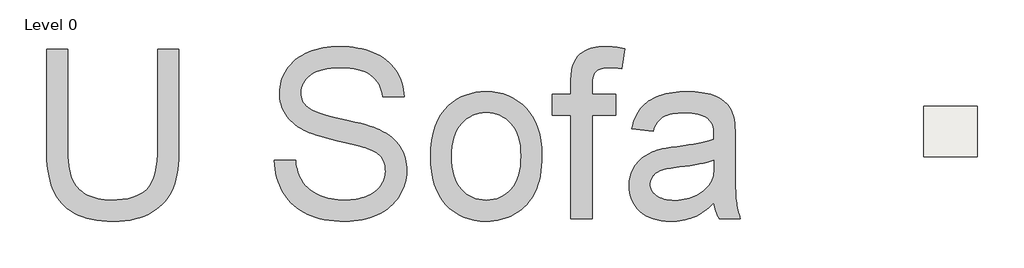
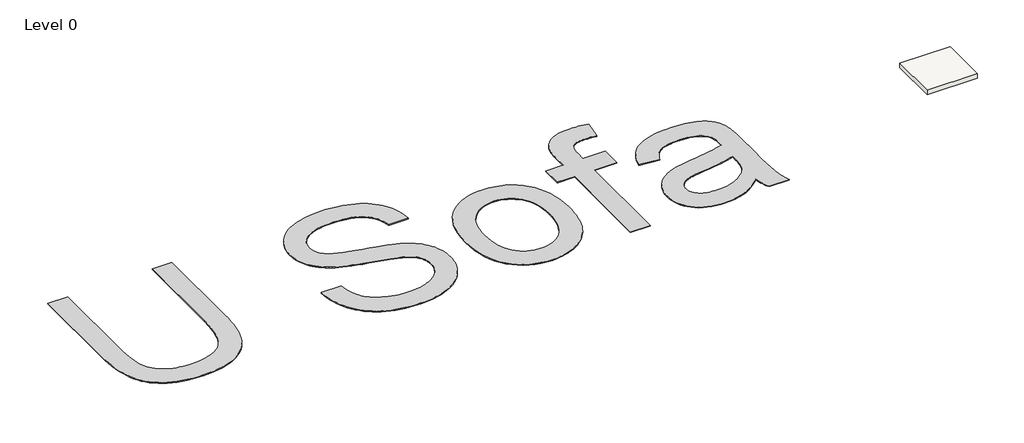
# One storey, incomplete: 1 proxy, 1 slab.
"""IFC4 building model written with IfcOpenShell, lengths in millimetres."""

from ifc_helpers import new_model, si_unit, frame, origin, origin_with_axes, place, context, project, spatial, polyline, outline, extrude, element, save

model = new_model("IFC4")

# Units and contexts
model_context = context("Model", 3, world=origin())
ifc_project = project(units=[si_unit("LENGTHUNIT", "METRE", prefix="MILLI")], contexts=[model_context])

# Site, building, storey
site = spatial("IfcSite", under=ifc_project)
building = spatial("IfcBuilding", under=site)
storey = spatial("IfcBuildingStorey", under=building, Name="Level 0", Elevation=0.0)

# Proxy
placement = place(None, origin())
element("IfcBuildingElementProxy", 1, Name="10 mm", ObjectType="10 mm", at=placement, inside=storey, context=model_context, shape_type="SweptSolid", body=[
    extrude(outline(polyline([(-150445.8541845, 80756.0577544), (-149190.1503076, 80756.0577544), (-149190.1503076, 74960.690057), (-149195.4769323, 74592.1374436), (-149211.4568065, 74243.0902402), (-149238.0899301, 73913.5484467), (-149275.3763031, 73603.5120631), (-149323.3159256, 73312.9810896), (-149381.9087976, 73041.9555259), (-149451.154919, 72790.4353722), (-149531.0542898, 72558.4206285), (-149624.8258775, 72341.3319303), (-149735.6886496, 72134.5899132), (-149863.642606, 71938.1945773), (-150008.6877469, 71752.1459224), (-150170.824072, 71576.4439487), (-150350.0515815, 71411.0886561), (-150546.3702754, 71256.0800445), (-150759.7801537, 71111.4181142), (-150990.3961794, 70980.6475612), (-151238.3333157, 70867.3130819), (-151503.5915627, 70771.4146764), (-151786.1709202, 70692.9523446), (-152086.0713884, 70631.9260866), (-152403.2929671, 70588.3359023), (-152737.8356565, 70562.1817917), (-153089.6994565, 70553.4637548), (-153432.4236881, 70561.051321), (-153759.1680456, 70583.8140194), (-154069.9325289, 70621.7518502), (-154364.7171381, 70674.8648132), (-154643.5218731, 70743.1529086), (-154906.3467339, 70826.6161362), (-155153.1917206, 70925.2544962), (-155384.056833, 71039.0679884), (-155598.9612319, 71167.2710317), (-155797.9240776, 71309.0780445), (-155980.9453702, 71464.4890269), (-156148.0251097, 71633.503979), (-156299.163296, 71816.1229006), (-156434.3599293, 72012.3457919), (-156553.6150094, 72222.1726528), (-156656.9285364, 72445.6034833), (-156746.3123649, 72686.3554244), (-156823.7783496, 72948.1456172), (-156889.3264905, 73230.9740615), (-156942.9567876, 73534.8407574), (-156984.6692409, 73859.7457049), (-157014.4638504, 74205.688904), (-157032.3406161, 74572.6703547), (-157038.299538, 74960.690057), (-157038.299538, 80756.0577544), (-155782.5956612, 80756.0577544), (-155782.5956612, 75004.8358964), (-155778.725236, 74690.5841984), (-155767.1139605, 74397.7539623), (-155747.7618347, 74126.3451883), (-155720.6688586, 73876.3578762), (-155685.8350322, 73647.7920262), (-155643.2603555, 73440.6476382), (-155592.9448284, 73254.9247122), (-155534.8884511, 73090.6232482), (-155467.4050976, 72941.4202744), (-155388.8086422, 72800.9928191), (-155299.0990848, 72669.3408822), (-155198.2764255, 72546.4644637), (-155086.3406642, 72432.3635636), (-154963.2918011, 72327.038182), (-154829.1298359, 72230.4883188), (-154683.8547689, 72142.713974), (-154528.8078363, 72064.53905), (-154365.3302747, 71996.7874492), (-154193.4220841, 71939.4591716), (-154013.0832644, 71892.5542172), (-153824.3138156, 71856.0725861), (-153627.1137377, 71830.0142781), (-153421.4830309, 71814.3792933), (-153207.4216949, 71809.1676317), (-152848.0086498, 71819.4759917), (-152515.3436915, 71850.401072), (-152209.4268199, 71901.9428723), (-151930.258035, 71974.1013928), (-151677.8373368, 72066.8766335), (-151452.1647254, 72180.2685943), (-151253.2402007, 72314.2772753), (-151081.0637628, 72468.9026764), (-150932.1865179, 72652.8436739), (-150803.1595723, 72874.7991444), (-150693.982926, 73134.7690876), (-150604.656579, 73432.7535037), (-150535.1805314, 73768.7523926), (-150485.5547831, 74142.7657544), (-150455.7793341, 74554.793589), (-150445.8541845, 75004.8358964), (-150445.8541845, 80756.0577544)])), origin_with_axes(), (0.0, 0.0, 1.0), 50.0),
    extrude(outline(polyline([(-143539.4828617, 74163.6124008), (-142283.7789848, 74163.6124008), (-142258.6787028, 73976.5865594), (-142226.2974231, 73798.1063102), (-142186.6351455, 73628.1716531), (-142139.69187, 73466.7825883), (-142085.4675968, 73313.9391156), (-142023.9623257, 73169.6412351), (-141955.1760568, 73033.8889468), (-141879.1087901, 72906.6822506), (-141793.9211156, 72786.6990707), (-141697.7736233, 72672.6173312), (-141590.6663133, 72564.437032), (-141472.5991854, 72462.1581731), (-141343.5722398, 72365.7807546), (-141203.5854765, 72275.3047764), (-141052.6388953, 72190.7302385), (-140890.7324964, 72112.057141), (-140720.7403578, 72041.0674123), (-140545.5365576, 71979.5429807), (-140365.1210958, 71927.4838463), (-140179.4939724, 71884.890009), (-139988.6551874, 71851.7614689), (-139792.6047408, 71828.098226), (-139591.3426326, 71813.9002803), (-139384.8688628, 71809.1676317), (-139201.8092492, 71812.750649), (-139024.1912234, 71823.4997011), (-138852.0147854, 71841.4147878), (-138685.2799353, 71866.4959093), (-138523.9866731, 71898.7430654), (-138368.1349986, 71938.1562562), (-138217.7249121, 71984.7354818), (-138072.7564133, 72038.480742), (-137935.0497519, 72098.4914925), (-137806.4251773, 72163.8671887), (-137686.8826893, 72234.6078307), (-137576.4222882, 72310.7134184), (-137475.0439738, 72392.1839519), (-137382.7477461, 72479.0194312), (-137299.5336053, 72571.2198563), (-137225.4015511, 72668.7852271), (-137160.1599785, 72769.6653679), (-137103.6172823, 72871.8101032), (-137055.7734624, 72975.2194327), (-137016.6285189, 73079.8933567), (-136986.1824517, 73185.831875), (-136964.4352608, 73293.0349876), (-136951.3869463, 73401.5026946), (-136947.0375081, 73511.234996), (-136950.2947966, 73621.6570761), (-136960.0666621, 73728.5152994), (-136976.3531046, 73831.8096659), (-136999.1541241, 73931.5401755), (-137028.4697206, 74027.7068283), (-137064.2998941, 74120.3096243), (-137106.6446446, 74209.3485634), (-137155.503972, 74294.8236457), (-137214.4417333, 74376.9647975), (-137287.0217853, 74456.0019449), (-137373.2441279, 74531.935088), (-137473.1087612, 74604.7642267), (-137586.6156851, 74674.4893611), (-137713.7648997, 74741.1104911), (-137854.556405, 74804.6276169), (-138008.9902008, 74865.0407383), (-138127.6896259, 74906.3316601), (-138277.7739836, 74952.9492067), (-138459.243274, 75004.893378), (-138672.0974972, 75062.164174), (-139191.9607416, 75192.6856402), (-139837.3637169, 75344.5136053), (-140177.9419702, 75425.2751996), (-140491.5038895, 75505.0787678), (-140778.0494749, 75583.92431), (-141037.5787261, 75661.8118262), (-141270.0916434, 75738.7413163), (-141475.5882266, 75814.7127804), (-141654.0684759, 75889.7262185), (-141805.5323911, 75963.7816305), (-141978.8776208, 76061.002112), (-142140.8415013, 76163.8174654), (-142291.4240325, 76272.2276909), (-142430.6252145, 76386.2327883), (-142558.4450473, 76505.8327578), (-142674.8835309, 76631.0275993), (-142779.9406653, 76761.8173128), (-142873.6164504, 76898.2018983), (-142956.1024915, 77039.4915771), (-143027.5903938, 77184.9965704), (-143088.0801573, 77334.7168782), (-143137.5717819, 77488.6525005), (-143176.0652678, 77646.8034374), (-143203.5606148, 77809.1696888), (-143220.057823, 77975.7512548), (-143225.5568925, 78146.5481353), (-143218.7549076, 78335.0684973), (-143198.3489532, 78520.4848549), (-143164.3390292, 78702.7972083), (-143116.7251355, 78882.0055573), (-143055.5072723, 79058.1099019), (-142980.6854394, 79231.1102423), (-142892.2596369, 79401.0065783), (-142790.2298648, 79567.79891), (-142675.1326177, 79728.0575041), (-142547.5043901, 79878.3526275), (-142407.345182, 80018.6842803), (-142254.6549935, 80149.0524623), (-142089.4338245, 80269.4571737), (-141911.6816751, 80379.8984143), (-141721.3985452, 80480.3761842), (-141518.5844348, 80570.8904835), (-141306.5541141, 80651.0772621), (-141088.622353, 80720.5724703), (-140864.7891515, 80779.3761079), (-140635.0545098, 80827.4881751), (-140399.4184276, 80864.9086718), (-140157.8809052, 80891.637598), (-139910.4419424, 80907.6749537), (-139657.1015392, 80913.020739), (-139379.8104854, 80907.425867), (-139110.7967764, 80890.6412509), (-138850.0604123, 80862.6668909), (-138597.6013931, 80823.5027868), (-138353.4197188, 80773.1489387), (-138117.5153894, 80711.6053466), (-137889.8884049, 80638.8720105), (-137670.5387653, 80554.9489303), (-137461.5358068, 80460.1809955), (-137264.9488656, 80354.9130955), (-137080.7779418, 80239.1452301), (-136909.0230353, 80112.8773995), (-136749.6841461, 79976.1096036), (-136602.7612743, 79828.8418424), (-136468.2544198, 79671.0741159), (-136346.1635826, 79502.8064241), (-136236.9869364, 79326.4146717), (-136141.2226545, 79144.274763), (-136058.870737, 78956.3866982), (-135989.931184, 78762.7504772), (-135934.4039953, 78563.3661), (-135892.2891711, 78358.2335666), (-135863.5867113, 78147.3528771), (-135848.2966158, 77930.7240314), (-137104.0004927, 77930.7240314), (-137138.1828614, 78137.5810116), (-137188.0002149, 78331.4088378), (-137253.4525533, 78512.20751), (-137334.5398764, 78679.9770283), (-137431.2621843, 78834.7173925), (-137543.6194769, 78976.4286027), (-137671.6117544, 79105.1106589), (-137815.2390167, 79220.7635612), (-137975.7658582, 79323.0807411), (-138154.4568731, 79411.7556303), (-138351.3120616, 79486.7882289), (-138566.3314235, 79548.1785369), (-138799.514959, 79595.9265542), (-139050.862668, 79630.0322808), (-139320.3745505, 79650.4957168), (-139608.0506065, 79657.3168621), (-139905.9967016, 79650.5723589), (-140183.0195082, 79630.3388491), (-140439.1190263, 79596.6163329), (-140674.2952559, 79549.4048102), (-140888.5481971, 79488.704281), (-141081.8778497, 79414.5147453), (-141254.2842139, 79326.8362031), (-141405.7672896, 79225.6686544), (-141537.9748817, 79114.9591665), (-141652.5547947, 78998.6548066), (-141749.5070289, 78876.7555746), (-141828.8315841, 78749.2614707), (-141890.5284604, 78616.1724947), (-141934.5976577, 78477.4886467), (-141961.0391761, 78333.2099268), (-141969.8530156, 78183.3363348), (-141963.6066859, 78053.8495367), (-141944.8676967, 77930.2641789), (-141913.6360482, 77812.5802615), (-141869.9117402, 77700.7977844), (-141813.6947728, 77594.9167477), (-141744.985146, 77494.9371513), (-141663.7828598, 77400.8589952), (-141570.0879142, 77312.6822795), (-141452.2123915, 77226.6132211), (-141294.7895544, 77140.0843101), (-141097.8194029, 77053.0955467), (-140861.3019368, 76965.6469307), (-140585.2371562, 76877.7384623), (-140269.6250612, 76789.3701414), (-139914.4656517, 76700.541968), (-139519.7589277, 76611.253942), (-139122.3697308, 76523.0772263), (-138759.1629027, 76437.5829835), (-138430.1384432, 76354.7712135), (-138135.2963525, 76274.6419165), (-137874.6366305, 76197.1950923), (-137648.1592772, 76122.430741), (-137455.8642927, 76050.3488625), (-137297.7516768, 75980.949457), (-137098.5014233, 75877.0611144), (-136912.7784973, 75766.5049106), (-136740.5828988, 75649.2808457), (-136581.9146279, 75525.3889196), (-136436.7736845, 75394.8291324), (-136305.1600686, 75257.601484), (-136187.0737803, 75113.7059744), (-136082.5148194, 74963.1426037), (-135990.8317285, 74806.2945822), (-135911.3730496, 74643.5451203), (-135844.1387829, 74474.8942182), (-135789.1289283, 74300.3418757), (-135746.3434858, 74119.8880928), (-135715.7824555, 73933.5328697), (-135697.4458373, 73741.2762061), (-135691.3336312, 73543.1181023), (-135698.3655423, 73345.2857273), (-135719.4612754, 73150.3274303), (-135754.6208307, 72958.2432115), (-135803.8442081, 72769.0330708), (-135867.1314076, 72582.6970081), (-135944.4824292, 72399.2350235), (-136035.8972729, 72218.647117), (-136141.3759387, 72040.9332886), (-136260.0562032, 71869.5615925), (-136391.0758429, 71708.000083), (-136534.4348579, 71556.24876), (-136690.1332481, 71414.3076235), (-136858.1710136, 71282.1766736), (-137038.5481544, 71159.8559102), (-137231.2646704, 71047.3453333), (-137436.3205617, 70944.644943), (-137650.8225896, 70852.961852), (-137871.8775156, 70773.5031732), (-138099.4853396, 70706.2689064), (-138333.6460616, 70651.2590519), (-138574.3596817, 70608.4736094), (-138821.6261998, 70577.9125791), (-139075.4456159, 70559.5759609), (-139335.8179301, 70553.4637548), (-139663.7885609, 70560.0549739), (-139978.1552221, 70579.8286311), (-140278.9179137, 70612.7847265), (-140566.0766357, 70658.9232601), (-140839.631388, 70718.2442318), (-141099.5821707, 70790.7476417), (-141345.9289839, 70876.4334897), (-141578.6718274, 70975.3017759), (-141798.5388011, 71087.4291424), (-142006.2580047, 71212.8922312), (-142201.8294383, 71351.6910423), (-142385.2531018, 71503.8255757), (-142556.5289953, 71669.2958314), (-142715.6571187, 71848.1018095), (-142862.6374721, 72040.2435099), (-142997.4700554, 72245.7209326), (-143118.6028666, 72461.3151102), (-143224.4839033, 72683.8070752), (-143315.1131657, 72913.1968276), (-143390.4906536, 73149.4843674), (-143450.6163672, 73392.6696947), (-143495.4903064, 73642.7528093), (-143525.1124712, 73899.7337113), (-143539.4828617, 74163.6124008)])), origin_with_axes(), (0.0, 0.0, 1.0), 50.0),
    extrude(outline(polyline([(-134278.6667698, 74399.0568777), (-134261.6905485, 74893.2833456), (-134210.7618848, 75354.477076), (-134125.8807786, 75782.638069), (-134007.04723, 76177.7663244), (-133854.2612389, 76539.8618424), (-133667.5228053, 76868.9246228), (-133446.8319292, 77164.9546658), (-133192.1886107, 77427.9519713), (-132959.1200383, 77619.365572), (-132713.6354486, 77785.2573592), (-132455.7348416, 77925.6273329), (-132185.4182172, 78040.4754933), (-131902.6855755, 78129.8018403), (-131607.5369164, 78193.6063738), (-131299.9722401, 78231.8890939), (-130979.9915463, 78244.6500006), (-130625.3111498, 78229.1108184), (-130287.2237642, 78182.4932719), (-129965.7293893, 78104.7973609), (-129660.8280253, 77996.0230856), (-129372.5196721, 77856.1704458), (-129100.8043297, 77685.2394417), (-128845.6819982, 77483.2300732), (-128607.1526774, 77250.1423403), (-128391.3094131, 76989.655063), (-128204.2452506, 76705.4470612), (-128045.9601901, 76397.518335), (-127916.4542315, 76065.8688842), (-127815.7273748, 75710.498709), (-127743.77962, 75331.4078092), (-127700.6109671, 74928.596185), (-127686.2214162, 74502.0638364), (-127692.582709, 74156.5230082), (-127711.6665875, 73829.9127743), (-127743.4730517, 73522.2331348), (-127788.0021015, 73233.4840897), (-127845.253737, 72963.6656388), (-127915.2279582, 72712.7777823), (-127997.924765, 72480.8205202), (-128093.3441575, 72267.7938523), (-128200.9304806, 72069.9231563), (-128320.1280791, 71883.4338094), (-128450.9369531, 71708.3258118), (-128593.3571026, 71544.5991635), (-128747.3885276, 71392.2538643), (-128913.031228, 71251.2899144), (-129090.2852039, 71121.7073137), (-129279.1504553, 71003.5060622), (-129476.0631253, 70898.0273964), (-129677.4593572, 70806.6125527), (-129883.3391508, 70729.2615311), (-130093.7025063, 70665.9743317), (-130308.5494236, 70616.7509543), (-130527.8799027, 70581.591399), (-130751.6939436, 70560.4956659), (-130979.9915463, 70553.4637548), (-131340.2668148, 70568.9454554), (-131682.8760834, 70615.3905573), (-132007.8193519, 70692.7990605), (-132315.0966205, 70801.1709649), (-132604.7078891, 70940.5062706), (-132876.6531577, 71110.8049775), (-133130.9324264, 71312.0670857), (-133367.545695, 71544.2925951), (-133581.0896969, 71805.6420959), (-133766.1611652, 72094.2761779), (-133922.7600999, 72410.1948413), (-134050.8865011, 72753.398086), (-134150.5403686, 73123.8859119), (-134221.7217026, 73521.6583192), (-134264.430503, 73946.7153078), (-134278.6667698, 74399.0568777)]), holes=[polyline([(-133022.9628929, 74401.5094244), (-133013.8808061, 74086.7595527), (-132986.6345459, 73792.4347961), (-132941.2241121, 73518.5351544), (-132877.6495048, 73265.0606276), (-132795.910724, 73032.0112157), (-132696.0077697, 72819.3869188), (-132577.9406418, 72627.1877369), (-132441.7093405, 72455.4136699), (-132291.7207854, 72303.9497547), (-132132.3818962, 72172.6810282), (-131963.692673, 72061.6074903), (-131785.6531158, 71970.7291412), (-131598.2632245, 71900.0459808), (-131401.5229991, 71849.5580091), (-131195.4324398, 71819.265226), (-130979.9915463, 71809.1676317), (-130765.7002841, 71819.3227076), (-130560.6060718, 71849.7879353), (-130364.7089094, 71900.5633148), (-130178.0087969, 71971.6488462), (-130000.5057342, 72063.0445294), (-129832.1997214, 72174.7503644), (-129673.0907585, 72306.7663512), (-129523.1788454, 72459.0924898), (-129386.9475441, 72632.2269538), (-129268.8804163, 72826.6679167), (-129168.977462, 73042.4153784), (-129087.2386812, 73279.4693391), (-129023.6640739, 73537.8297986), (-128978.2536401, 73817.496757), (-128951.0073798, 74118.4702143), (-128941.9252931, 74440.7501705), (-128951.0648614, 74745.153361), (-128978.4835663, 75030.510994), (-129024.1814079, 75296.8230696), (-129088.1583861, 75544.0895877), (-129170.414501, 75772.3105484), (-129270.9497525, 75981.4859516), (-129389.7641406, 76171.6157973), (-129526.8576654, 76342.7000856), (-129677.5168387, 76494.1640008), (-129837.0281726, 76625.4327273), (-130005.3916669, 76736.5062651), (-130182.6073218, 76827.3846142), (-130368.6751372, 76898.0677746), (-130563.595113, 76948.5557464), (-130767.3672494, 76978.8485294), (-130979.9915463, 76988.9461238), (-131195.4324398, 76978.8868505), (-131401.5229991, 76948.7090305), (-131598.2632245, 76898.412664), (-131785.6531158, 76827.9977509), (-131963.692673, 76737.4642911), (-132132.3818962, 76626.8122848), (-132291.7207854, 76496.0417318), (-132441.7093405, 76345.1526322), (-132577.9406418, 76173.9533808), (-132696.0077697, 75982.2523724), (-132795.910724, 75770.0496069), (-132877.6495048, 75537.3450845), (-132941.2241121, 75284.138805), (-132986.6345459, 75010.4307685), (-133013.8808061, 74716.2209749), (-133022.9628929, 74401.5094244)])]), origin_with_axes(), (0.0, 0.0, 1.0), 50.0),
    extrude(outline(polyline([(-125959.6285855, 70710.4267394), (-125959.6285855, 76831.9831392), (-127058.3694778, 76831.9831392), (-127058.3694778, 78087.687016), (-125959.6285855, 78087.687016), (-125959.6285855, 78830.8086463), (-125957.5592493, 79001.6821688), (-125951.3512406, 79161.1360211), (-125941.0045595, 79309.1702031), (-125926.5192059, 79445.7847149), (-125907.8951799, 79570.9795564), (-125885.1324815, 79684.7547276), (-125858.2311106, 79787.1102285), (-125827.1910672, 79878.0460592), (-125776.9138612, 79990.5949571), (-125718.052742, 80097.7022672), (-125650.6077095, 80199.3679894), (-125574.5787639, 80295.5921237), (-125489.965905, 80386.3746703), (-125396.7691329, 80471.7156289), (-125294.9884475, 80551.6149998), (-125184.623849, 80626.0727827), (-125064.525706, 80693.32621), (-124933.5443873, 80751.6125136), (-124791.6798929, 80800.9316936), (-124638.9322228, 80841.2837499), (-124475.301377, 80872.6686826), (-124300.7873556, 80895.0864917), (-124115.3901584, 80908.5371772), (-123919.1097856, 80913.020739), (-123788.0135038, 80910.8747607), (-123653.4683282, 80904.4368258), (-123515.474259, 80893.7069342), (-123374.0312961, 80878.6850861), (-123229.1394394, 80859.3712814), (-123080.7986891, 80835.76552), (-122929.009045, 80807.867802), (-122773.7705073, 80775.6781274), (-122957.7115048, 79598.4557429), (-123146.4043115, 79624.2074825), (-123329.8854566, 79642.6015823), (-123508.1549401, 79653.6380422), (-123681.212762, 79657.3168621), (-123815.8920612, 79654.0595736), (-123940.3396424, 79644.2877081), (-124054.5555056, 79628.0012656), (-124158.5396508, 79605.2002461), (-124252.292078, 79575.8846496), (-124335.8127872, 79540.0544761), (-124409.1017784, 79497.7097257), (-124472.1590517, 79448.8503982), (-124526.4791275, 79391.1005891), (-124573.5565266, 79322.084394), (-124613.3912489, 79241.8018128), (-124645.9832944, 79150.2528454), (-124671.3326631, 79047.437492), (-124689.4393551, 78933.3557524), (-124700.3033702, 78808.0076268), (-124703.9247086, 78671.393115), (-124703.9247086, 78087.687016), (-123291.2578471, 78087.687016), (-123291.2578471, 76831.9831392), (-124703.9247086, 76831.9831392), (-124703.9247086, 70710.4267394), (-125959.6285855, 70710.4267394)])), origin_with_axes(), (0.0, 0.0, 1.0), 50.0),
    extrude(outline(polyline([(-117483.6274166, 71652.2046471), (-117631.9490064, 71506.92958), (-117781.3819065, 71372.7676149), (-117931.9261167, 71249.7187517), (-118083.5816371, 71137.7829905), (-118236.3484677, 71036.9603312), (-118390.2266085, 70947.2507738), (-118545.2160595, 70868.6543184), (-118701.3168207, 70801.1709649), (-118859.410276, 70743.1145875), (-119020.3778094, 70692.7990605), (-119184.2194209, 70650.2243837), (-119350.9351105, 70615.3905573), (-119520.5248781, 70588.2975812), (-119692.9887239, 70568.9454554), (-119868.3266477, 70557.33418), (-120046.5386497, 70553.4637548), (-120334.6937187, 70562.7757678), (-120605.6426403, 70590.7118068), (-120859.3854143, 70637.2718718), (-121095.9220409, 70702.4559628), (-121315.25252, 70786.2640799), (-121517.3768516, 70888.6962229), (-121702.2950358, 71009.7523919), (-121870.0070724, 71149.432587), (-122019.1717252, 71303.5981356), (-122148.4477575, 71468.1103653), (-122257.8351695, 71642.9692761), (-122347.3339612, 71828.1748681), (-122416.9441325, 72023.7271412), (-122466.6656834, 72229.6260953), (-122496.4986139, 72445.8717306), (-122506.4429241, 72672.464047), (-122502.6874621, 72807.0858646), (-122491.421076, 72938.718641), (-122472.6437658, 73067.3623762), (-122446.3555316, 73193.0170702), (-122412.5563732, 73315.682723), (-122371.2462909, 73435.3593345), (-122322.4252844, 73552.0469049), (-122266.0933539, 73665.745434), (-122203.6492173, 73775.1903276), (-122136.4915927, 73879.1169912), (-122064.62048, 73977.5254249), (-121988.0358792, 74070.4156287), (-121906.7377904, 74157.7876025), (-121820.7262135, 74239.6413465), (-121730.0011485, 74315.9768605), (-121634.5625955, 74386.7941445), (-121535.2536174, 74452.7829774), (-121432.9172769, 74514.6331379), (-121327.5535742, 74572.3446259), (-121219.1625093, 74625.9174414), (-121107.7440821, 74675.3515845), (-120993.2982927, 74720.6470552), (-120875.825141, 74761.8038534), (-120755.3246271, 74798.8219791), (-120552.2231089, 74847.4130593), (-120303.4429096, 74895.0844345), (-120008.9840293, 74941.8361048), (-119668.846468, 74987.66807), (-119311.3111539, 75034.1131719), (-118978.148022, 75082.7042521), (-118669.3570723, 75133.4413106), (-118384.9383048, 75186.3243474), (-118124.8917195, 75241.3533625), (-117889.2173163, 75298.5283559), (-117677.9150953, 75357.8493276), (-117490.9850565, 75419.3162777), (-117483.6274166, 75698.906594), (-117489.0306834, 75857.172494), (-117505.2404838, 76003.328945), (-117532.2568179, 76137.375947), (-117570.0796855, 76259.3135), (-117618.7090867, 76369.141604), (-117678.1450216, 76466.8602589), (-117748.38749, 76552.4694649), (-117829.4364921, 76625.9692219), (-117953.0601709, 76711.0419332), (-118090.939277, 76784.7716164), (-118243.0738104, 76847.1582715), (-118409.4637711, 76898.2018983), (-118590.1091592, 76937.9024969), (-118785.0099746, 76966.2600674), (-118994.1662172, 76983.2746097), (-119217.5778872, 76988.9461238), (-119425.7377828, 76985.1715012), (-119619.7955353, 76973.8476335), (-119799.7511446, 76954.9745208), (-119965.6046107, 76928.5521629), (-120117.3559338, 76894.5805599), (-120255.0051136, 76853.0597118), (-120378.5521503, 76803.9896186), (-120487.9970439, 76747.3702803), (-120587.0569353, 76681.1323606), (-120679.4489656, 76603.2065234), (-120765.1731346, 76513.5927686), (-120844.2294426, 76412.2910963), (-120916.6178893, 76299.3015064), (-120982.3384749, 76174.623999), (-121041.3911993, 76038.258574), (-121093.7760626, 75890.2052315), (-122349.4799395, 76047.1682161), (-122305.0466923, 76232.6420553), (-122253.9072628, 76408.9188447), (-122196.0616512, 76575.9985842), (-122131.5098573, 76733.8812738), (-122060.2518813, 76882.5669135), (-121982.2877231, 77022.0555033), (-121897.6173826, 77152.3470433), (-121806.2408599, 77273.4415334), (-121706.2612635, 77386.6035679), (-121595.7817019, 77493.0977413), (-121474.8021749, 77592.9240536), (-121343.3226827, 77686.0825046), (-121201.3432252, 77772.5730945), (-121048.8638024, 77852.3958233), (-120885.8844143, 77925.5506909), (-120712.405061, 77992.0376973), (-120530.1310287, 78051.2437059), (-120340.7676037, 78102.55558), (-120144.3147862, 78145.9733196), (-119940.7725761, 78181.4969248), (-119730.1409733, 78209.1263955), (-119512.4199779, 78228.8617317), (-119287.6095899, 78240.7029334), (-119055.7098093, 78244.6500006), (-118826.9906752, 78241.1627859), (-118609.2696798, 78230.7011416), (-118402.5468232, 78213.2650679), (-118206.8221055, 78188.8545647), (-118022.0955265, 78157.469632), (-117848.3670864, 78119.1102698), (-117685.6367851, 78073.7764781), (-117533.9046226, 78021.4682569), (-117392.5191412, 77963.8908925), (-117260.8288833, 77902.7496714), (-117138.8338487, 77838.0445934), (-117026.5340376, 77769.7756585), (-116923.9294499, 77697.9428669), (-116831.0200856, 77622.5462184), (-116747.8059447, 77543.5857131), (-116674.2870272, 77461.0613509), (-116608.1832312, 77373.9767849), (-116547.2144547, 77281.3356678), (-116491.3806978, 77183.1379999), (-116440.6819603, 77079.3837809), (-116395.1182423, 76970.073011), (-116354.6895439, 76855.2056901), (-116319.395865, 76734.7818182), (-116289.2372056, 76608.8013954), (-116274.8668152, 76521.8892741), (-116262.4124768, 76420.5684412), (-116243.2519562, 76174.7006411), (-116231.7556439, 75871.1979951), (-116227.9235397, 75510.0605032), (-116227.9235397, 73947.788297), (-116223.9381515, 73199.8382155), (-116211.9819866, 72586.9314831), (-116203.014863, 72331.1193728), (-116192.0550452, 72109.0680998), (-116179.1025333, 71920.7776641), (-116164.1573272, 71766.2480656), (-116146.2997221, 71629.307825), (-116124.6100128, 71493.7854629), (-116099.0881994, 71359.6809793), (-116069.7342818, 71226.9943743), (-116036.5482602, 71095.7256478), (-115999.5301344, 70965.8747998), (-115958.6799045, 70837.4418303), (-115913.9975705, 70710.4267394), (-117169.7014474, 70710.4267394), (-117228.2559983, 70813.1271297), (-117281.2923193, 70920.1194767), (-117328.8104103, 71031.4037802), (-117370.8102714, 71146.9800404), (-117407.2919026, 71266.8482571), (-117438.2553039, 71391.0084305), (-117463.7004752, 71519.4605605), (-117483.6274166, 71652.2046471)]), holes=[polyline([(-117483.6274166, 74163.6124008), (-117662.8166051, 74108.2384963), (-117863.1590083, 74054.9339281), (-118084.6546262, 74003.698696), (-118327.3034589, 73954.5328002), (-118591.1055063, 73907.4362406), (-118876.0607684, 73862.4090173), (-119182.1692452, 73819.4511301), (-119509.4309367, 73778.5625792), (-119862.9808625, 73731.810909), (-120160.8886365, 73682.3001238), (-120288.9767166, 73656.5100631), (-120403.1542588, 73630.0302236), (-120503.421263, 73602.8606054), (-120589.7777292, 73575.0012085), (-120666.8988246, 73545.1491175), (-120739.459716, 73512.0014168), (-120807.4604036, 73475.5581067), (-120870.9008872, 73435.819187), (-120929.781167, 73392.7846578), (-120984.1012428, 73346.454519), (-121033.8611148, 73296.8287707), (-121079.0607828, 73243.9074129), (-121119.297876, 73188.6101505), (-121154.1700235, 73131.8566885), (-121183.6772252, 73073.647027), (-121207.8194811, 73013.9811659), (-121226.5967913, 72952.8591052), (-121240.0091557, 72890.280845), (-121248.0565743, 72826.2463852), (-121250.7390472, 72760.7557259), (-121244.8950884, 72661.0826978), (-121227.3632121, 72565.6249843), (-121198.1434182, 72474.3825852), (-121157.2357068, 72387.3555008), (-121104.6400778, 72304.5437308), (-121040.3565312, 72225.9472754), (-120964.3850671, 72151.5661345), (-120876.7256855, 72081.4003081), (-120777.7615967, 72017.5957746), (-120667.8760111, 71962.2985122), (-120547.0689288, 71915.5085209), (-120415.3403498, 71877.2258008), (-120272.6902741, 71847.4503518), (-120119.1187016, 71826.1821739), (-119954.6256324, 71813.4212672), (-119779.2110665, 71809.1676317), (-119603.2408455, 71813.8619592), (-119432.1757177, 71827.9449418), (-119266.0156832, 71851.4165796), (-119104.760742, 71884.2768724), (-118948.4108941, 71926.5258202), (-118796.9661394, 71978.1634232), (-118650.426478, 72039.1896813), (-118508.7919098, 72109.6045944), (-118374.2084133, 72186.6873687), (-118248.8219666, 72267.7172102), (-118132.6325698, 72352.694119), (-118025.6402228, 72441.618095), (-117927.8449258, 72534.4891383), (-117839.2466786, 72631.3072488), (-117759.8454813, 72732.0724266), (-117689.6413339, 72836.7846715), (-117643.0812689, 72923.8500771), (-117602.7292126, 73020.7256691), (-117568.5851649, 73127.4114477), (-117540.6491259, 73243.9074129), (-117518.9210955, 73370.2135645), (-117503.4010739, 73506.3299028), (-117494.0890609, 73652.2564275), (-117490.9850565, 73807.9931388), (-117483.6274166, 74163.6124008)])]), origin_with_axes(), (0.0, 0.0, 1.0), 50.0),
])

# Slab
element("IfcSlab", 2, ObjectType="FL_300 mm_Generic", at=placement, inside=storey, context=model_context, shape_type="SweptSolid", body=[
    extrude(outline(polyline([(-101867.8885325, 77369.9753886), (-101867.8885325, 74369.9753886), (-105047.8885325, 74369.9753886), (-105047.8885325, 77369.9753886), (-101867.8885325, 77369.9753886)])), frame((0.0, 0.0, -300.0), z_axis=(0.0, 0.0, 1.0), x_axis=(1.0, 0.0, 0.0)), (0.0, 0.0, 1.0), 300.0),
])

save(model, "model.ifc")
